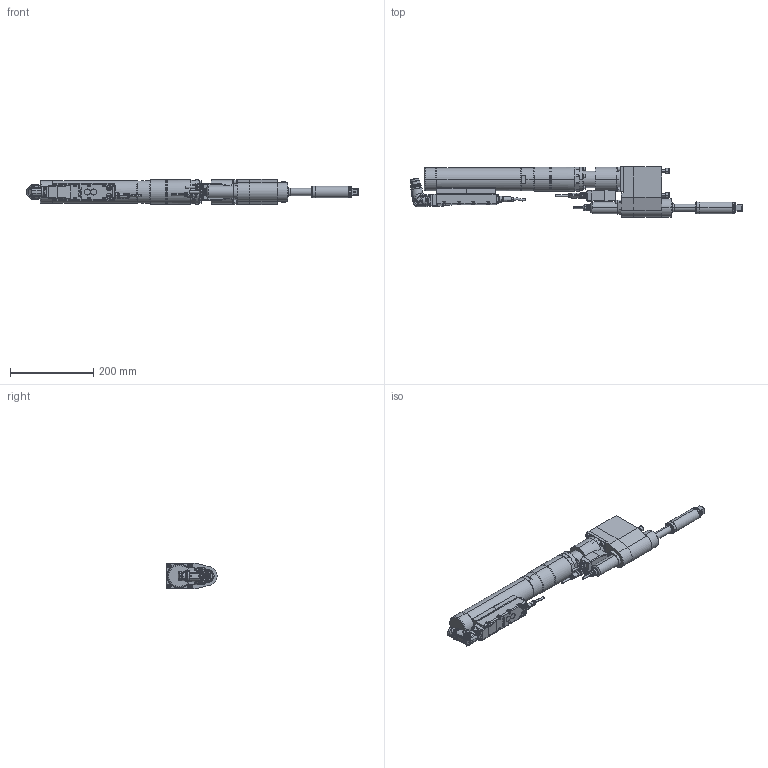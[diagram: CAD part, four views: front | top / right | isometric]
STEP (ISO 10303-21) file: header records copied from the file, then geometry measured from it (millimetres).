
FILE_DESCRIPTION (( 'STEP AP214' ), '1' );
FILE_NAME ('70082491_ESX227ZWRX270AODX250-270.STEP', '2018-11-28T08:58:26', ( 'admin' ), ( '' ), 'SwSTEP 2.0', 'SolidWorks 2017', '' );
FILE_SCHEMA (( 'AUTOMOTIVE_DESIGN' ));
Length unit declared in the file: millimetre
Products named in the file (11): 7004768_3; 70082384; 70082333; 70082307_ESX227_Standard_Winkel; 70082293_2; 70057493_Standard_winkel; 70057493_4; 70057493_3; 70057493_2; 70082307; 70082491_ESX227ZWRX270AODX250-270
Assembly tree (10 placements, depth 4):
  70082491_ESX227ZWRX270AODX250-270
    70082307_ESX227_Standard_Winkel
      70082307
      70057493_Standard_winkel
        70057493_2
        70057493_3
        70057493_4
      70082293_2
    70082333
    70082384
    7004768_3
Bounding box: 796.66 x 120.91 x 60 mm (x, y, z)
Volume: 2262491 mm3; surface area: 250753 mm2
Topology: 12 solids, 12 shells, 3189 faces, 8219 edges, 5210 vertices
Faces by surface type: plane 1332, cylinder 924, cone 488, bspline 307, torus 133, sphere 5
Entity records: 112819 total; most frequent: CARTESIAN_POINT 35054, ORIENTED_EDGE 16250, DIRECTION 14622, EDGE_CURVE 8125, AXIS2_PLACEMENT_3D 5494, VERTEX_POINT 5209, LINE 3634, VECTOR 3634
